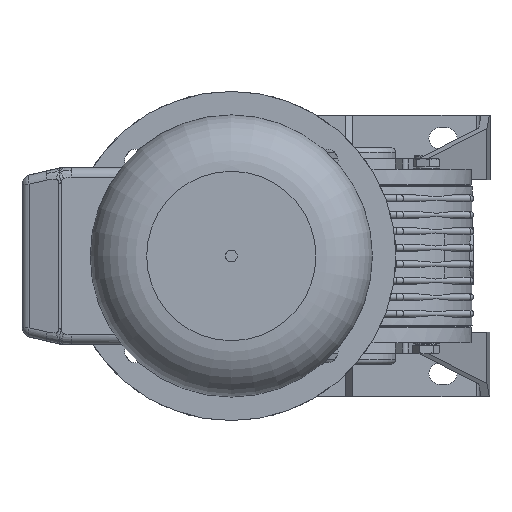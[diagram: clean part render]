
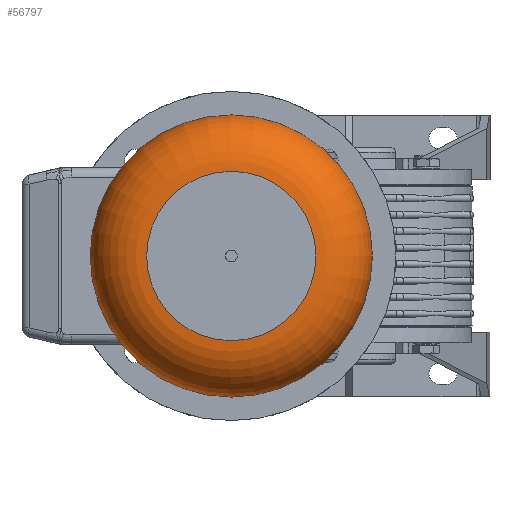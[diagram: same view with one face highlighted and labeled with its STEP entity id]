
A CAD part, left-side view. The second image highlights one B-rep face of the part: STEP entity #56797.
In plain terms, the highlighted toroidal (fillet/blend) face has major radius 36 mm and minor radius 24 mm.
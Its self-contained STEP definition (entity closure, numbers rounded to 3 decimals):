
#56770=CARTESIAN_POINT('',(236.0,0.0,0.0));
#56771=DIRECTION('',(1.0,0.0,0.0));
#56772=DIRECTION('',(0.0,0.0,-1.0));
#56773=AXIS2_PLACEMENT_3D('',#56770,#56771,#56772);
#56774=TOROIDAL_SURFACE('',#56773,36.,24.0);
#56775=CARTESIAN_POINT('',(260.,36.,0.0));
#56776=VERTEX_POINT('',#56775);
#56777=CARTESIAN_POINT('',(260.,0.0,0.0));
#56778=DIRECTION('',(1.0,0.0,0.0));
#56779=DIRECTION('',(0.0,1.0,0.0));
#56780=AXIS2_PLACEMENT_3D('',#56777,#56778,#56779);
#56781=CIRCLE('',#56780,36.);
#56782=EDGE_CURVE('',#56776,#56776,#56781,.T.);
#56783=ORIENTED_EDGE('',*,*,#56782,.F.);
#56784=EDGE_LOOP('',(#56783));
#56785=FACE_OUTER_BOUND('',#56784,.T.);
#56786=CARTESIAN_POINT('',(236.0,60.0,0.0));
#56787=VERTEX_POINT('',#56786);
#56788=CARTESIAN_POINT('',(236.0,0.0,0.0));
#56789=DIRECTION('',(1.0,0.0,0.0));
#56790=DIRECTION('',(0.0,1.0,0.0));
#56791=AXIS2_PLACEMENT_3D('',#56788,#56789,#56790);
#56792=CIRCLE('',#56791,60.0);
#56793=EDGE_CURVE('',#56787,#56787,#56792,.T.);
#56794=ORIENTED_EDGE('',*,*,#56793,.T.);
#56795=EDGE_LOOP('',(#56794));
#56796=FACE_BOUND('',#56795,.T.);
#56797=ADVANCED_FACE('',(#56785,#56796),#56774,.T.);
